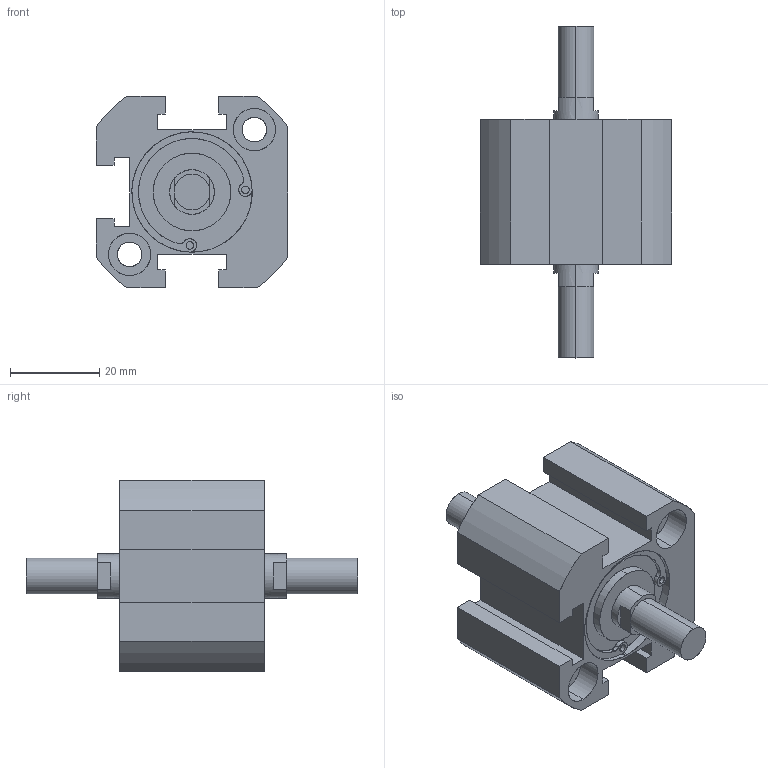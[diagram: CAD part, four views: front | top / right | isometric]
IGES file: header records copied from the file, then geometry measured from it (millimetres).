
Start section: SolidWorks IGES file using analytic representation for surfaces
Global section: file name: C:\Users\Toshiba\Desktop\XC#M7-25-10.IGS; native system: SolidWorks 2014; preprocessor: SolidWorks 2014; author: Toshiba; date: 160523.165519; units: millimetre
Bounding box: 43 x 74.5 x 43 mm (x, y, z)
Surface area: 13497 mm2 (no closed solid volume)
Topology: 0 solids, 0 shells, 127 faces, 1962 edges, 1958 vertices
Faces by surface type: revolution 69, bspline 58
